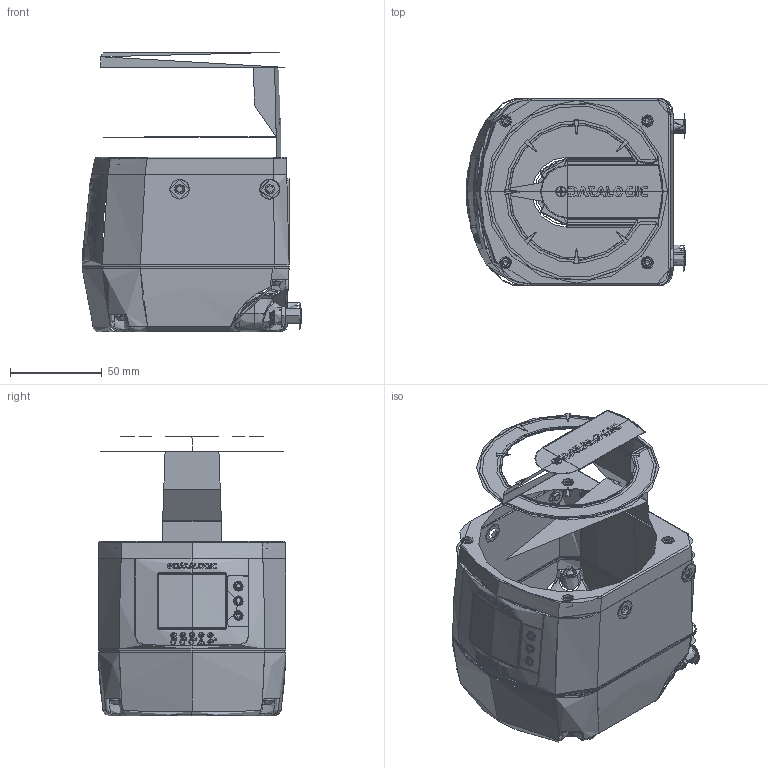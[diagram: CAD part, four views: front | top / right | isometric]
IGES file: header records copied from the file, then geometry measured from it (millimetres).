
Global section: file name: C:\Users\adichele.DL\Desktop\BACKUP DOCUMENTI DICHELE\PROGETTI\SLS\SLS PROGETTO\DIM-DSD\SLS-R5\DSD-0943_SLS_R5.igs; native system: NX V10.0; preprocessor: SIEMENS PLM Software NX 10.0; organization: Datalogic; date: 20181220.174758; units: millimetre
Bounding box: 119.5 x 102 x 152.15 mm (x, y, z)
Surface area: 92566.6 mm2 (no closed solid volume)
Topology: 0 solids, 0 shells, 1274 faces, 12553 edges, 12419 vertices
Faces by surface type: bspline 1273, offset 1
